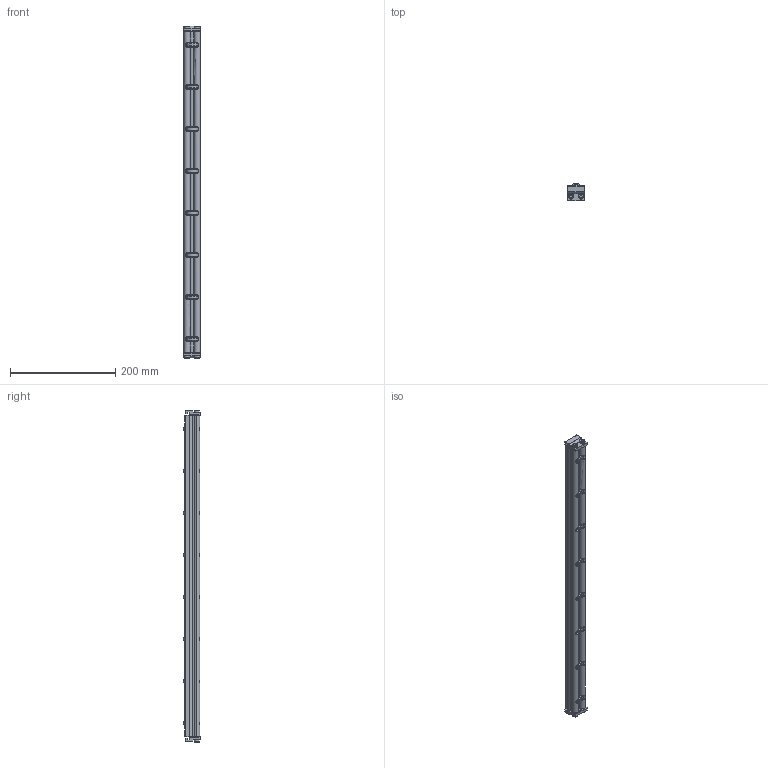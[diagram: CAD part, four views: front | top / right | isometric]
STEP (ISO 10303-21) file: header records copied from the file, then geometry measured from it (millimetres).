
FILE_DESCRIPTION((''),'2;1');
FILE_NAME('206523-24_ASM','2023-02-27T',('jenni.wallner'),(''),'PRO/ENGINEER BY PARAMETRIC TECHNOLOGY CORPORATION, 2012420','PRO/ENGINEER BY PARAMETRIC TECHNOLOGY CORPORATION, 2012420','');
FILE_SCHEMA(('CONFIG_CONTROL_DESIGN'));
Length unit declared in the file: inch
Products named in the file (7): 9506XXM_950616M; 240826; 2410WW_241024; 205977_205978_205979_205978; 2436WW_243624; ASM0001_ASM; 206523-24_ASM
Assembly tree (17 placements, depth 3):
  206523-24_ASM
    ASM0001_ASM
      9506XXM_950616M  x4
      240826  x8
      2410WW_241024
      205977_205978_205979_205978  x2
      2436WW_243624
Bounding box: 30.89 x 33.01 x 630.15 mm (x, y, z)
Volume: 301915.9 mm3; surface area: 180732.6 mm2
Topology: 16 solids, 16 shells, 562 faces, 1570 edges, 1032 vertices
Faces by surface type: cylinder 252, plane 194, cone 84, torus 32
Entity records: 13289 total; most frequent: CARTESIAN_POINT 3438, ORIENTED_EDGE 2146, DIRECTION 2009, EDGE_CURVE 1073, AXIS2_PLACEMENT_3D 751, VERTEX_POINT 714, VECTOR 507, LINE 507
